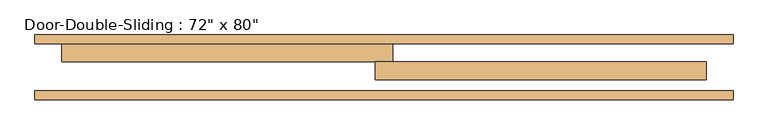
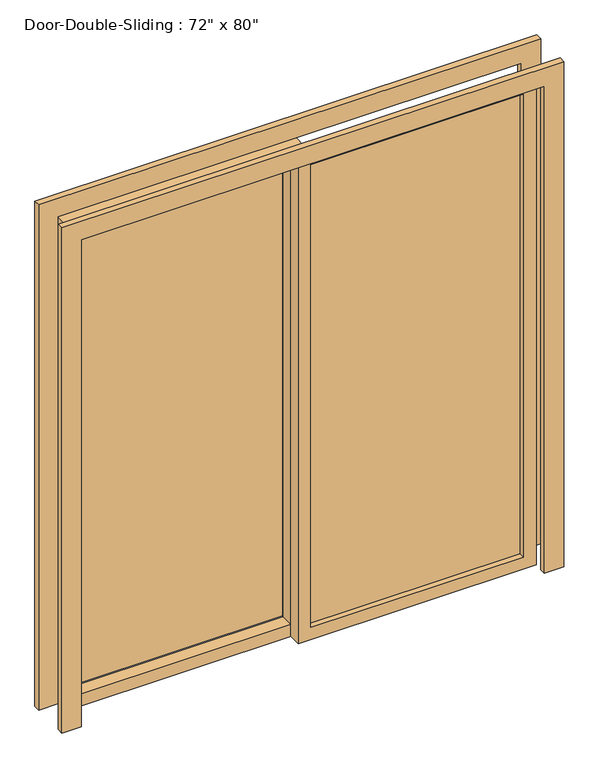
"""IFC4 building model written with IfcOpenShell, lengths in millimetres: door geometry."""

from ifc_helpers import new_model, si_unit, frame, origin, place, context, project, spatial, polyline, outline, extrude, source, transform, mapped, element, save


def door_cdccc48c(model_context):
    return source(origin(), model_context, "Body", "SweptSolid", [
        extrude(outline(polyline([(0.0, -990.6), (0.0, -914.4), (2032.0, -914.4), (2032.0, 914.4), (0.0, 914.4), (0.0, 990.6), (2108.2, 990.6), (2108.2, -990.6), (0.0, -990.6)])), frame((0.0, 34.925, 0.0), z_axis=(0.0, 1.0, 0.0), x_axis=(0.0, 0.0, 1.0)), (0.0, 0.0, 1.0), 25.4),
        extrude(outline(polyline([(0.0, 990.6), (2108.2, 990.6), (2108.2, -990.6), (0.0, -990.6), (0.0, -914.4), (2032.0, -914.4), (2032.0, 914.4), (0.0, 914.4), (0.0, 990.6)])), frame((0.0, 193.675, 0.0), z_axis=(0.0, 1.0, 0.0), x_axis=(0.0, 0.0, 1.0)), (0.0, 0.0, 1.0), 25.4),
        extrude(outline(polyline([(2032.0, -25.4), (0.0, -25.4), (0.0, 914.4), (2032.0, 914.4), (2032.0, -25.4)]), holes=[polyline([(1981.2, 25.4), (1981.2, 863.6), (50.8, 863.6), (50.8, 25.4), (1981.2, 25.4)])]), frame((0.0, 92.075, 0.0), z_axis=(0.0, 1.0, 0.0), x_axis=(0.0, 0.0, 1.0)), (0.0, 0.0, 1.0), 50.8),
        extrude(outline(polyline([(2032.0, 25.4), (2032.0, -914.4), (0.0, -914.4), (0.0, 25.4), (2032.0, 25.4)]), holes=[polyline([(1981.2, -25.4), (50.8, -25.4), (50.8, -863.6), (1981.2, -863.6), (1981.2, -25.4)])]), frame((0.0, 142.875, 0.0), z_axis=(0.0, 1.0, 0.0), x_axis=(0.0, 0.0, 1.0)), (0.0, 0.0, 1.0), 50.8),
        extrude(outline(polyline([(25.4, 120.65), (863.6, 120.65), (863.6, 114.3), (25.4, 114.3), (25.4, 120.65)])), frame((0.0, 0.0, 50.8), z_axis=(0.0, 0.0, 1.0), x_axis=(1.0, 0.0, 0.0)), (0.0, 0.0, 1.0), 1930.4),
        extrude(outline(polyline([(-25.4, 200.025), (-863.6, 200.025), (-863.6, 206.375), (-25.4, 206.375), (-25.4, 200.025)])), frame((0.0, 0.0, 50.8), z_axis=(0.0, 0.0, 1.0), x_axis=(1.0, 0.0, 0.0)), (0.0, 0.0, 1.0), 1930.4),
    ])


if __name__ == "__main__":
    model = new_model("IFC4")
    model_context = context("Model", 3, world=origin())
    ifc_project = project(units=[si_unit("LENGTHUNIT", "METRE", prefix="MILLI")], contexts=[model_context])
    site = spatial("IfcSite", under=ifc_project)
    building = spatial("IfcBuilding", under=site)
    placement = place(None, origin())
    door_shape = door_cdccc48c(model_context)
    element("IfcDoor", 1, ObjectType="Door-Double-Sliding : 72\" x 80\"", at=placement, inside=building, context=model_context, shape_type="MappedRepresentation", body=[
        mapped(door_shape, transform((0.0, 0.0, 0.0), x_axis=(1.0, 0.0, 0.0), y_axis=(0.0, 1.0, 0.0), z_axis=(0.0, 0.0, 1.0))),
    ])
    save(model, "model.ifc")
